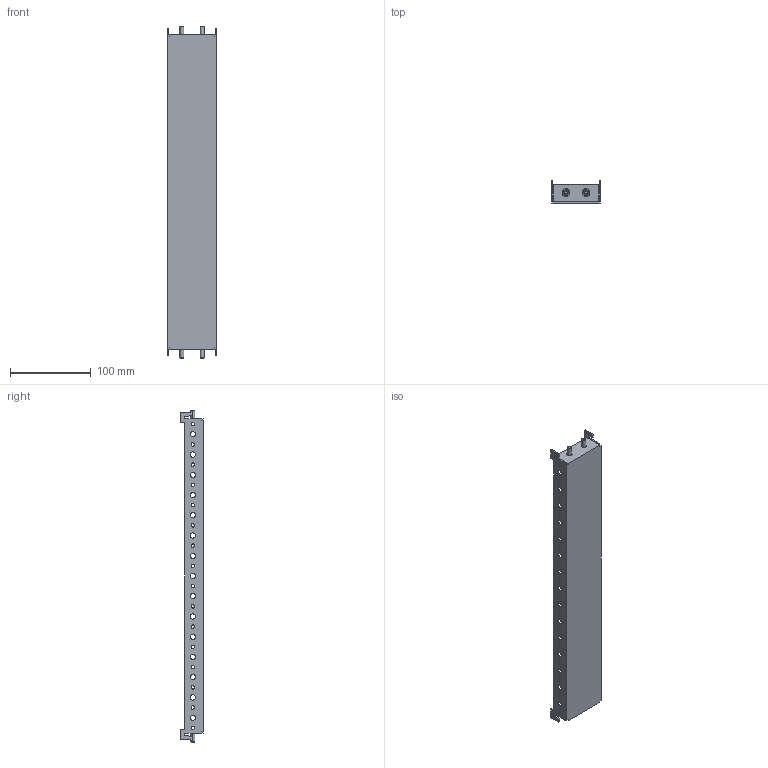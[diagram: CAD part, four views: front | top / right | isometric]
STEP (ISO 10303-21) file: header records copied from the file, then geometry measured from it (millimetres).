
FILE_DESCRIPTION(('Open CASCADE Model'),'2;1');
FILE_NAME('Open CASCADE Shape Model','2025-03-10T09:37:11',('Author'),( 'Open CASCADE'),'Open CASCADE STEP processor 7.8','Open CASCADE 7.8' ,'Unknown');
FILE_SCHEMA(('AUTOMOTIVE_DESIGN { 1 0 10303 214 1 1 1 1 }'));
Length unit declared in the file: millimetre
Products named in the file (3): Compound1; Solid1; Solid2
Assembly tree (5 placements, depth 2):
  Compound1
    Solid1
    Solid2  x4
Bounding box: 60 x 28 x 410 mm (x, y, z)
Volume: 63634.4 mm3; surface area: 87872.4 mm2
Topology: 5 solids, 5 shells, 290 faces, 776 edges, 492 vertices
Faces by surface type: cylinder 148, plane 94, cone 16, torus 16, bspline 8, sphere 8
Entity records: 7758 total; most frequent: CARTESIAN_POINT 1471, DIRECTION 1350, ORIENTED_EDGE 1248, EDGE_CURVE 624, AXIS2_PLACEMENT_3D 514, VERTEX_POINT 411, FACE_BOUND 351, EDGE_LOOP 351
